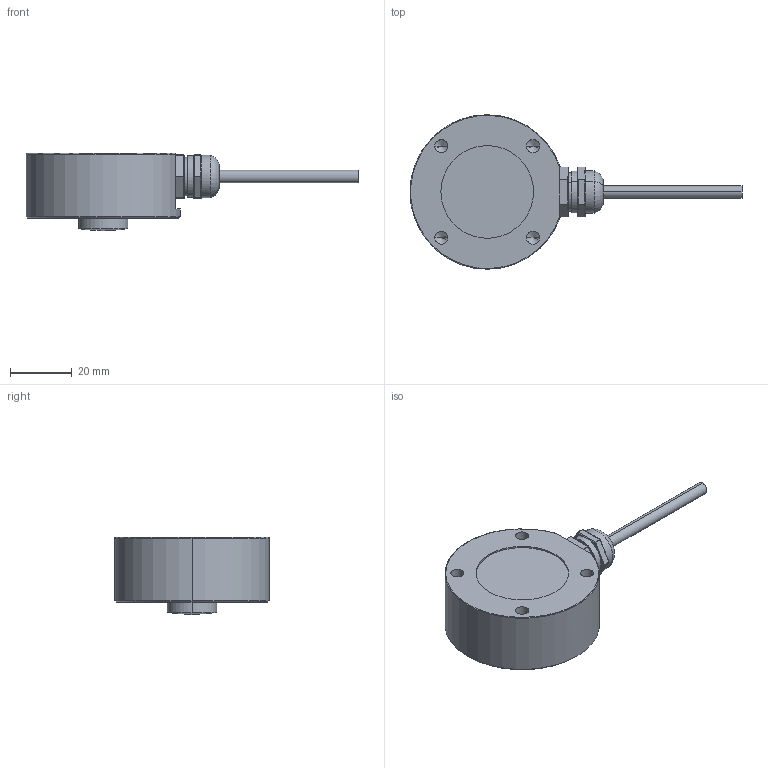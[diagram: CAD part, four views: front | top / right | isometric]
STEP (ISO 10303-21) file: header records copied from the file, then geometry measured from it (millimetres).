
FILE_DESCRIPTION (( 'STEP AP203' ), '1' );
FILE_NAME ('F1821(3000-5000kg).STEP', '2019-04-23T12:39:31', ( '' ), ( '' ), 'SwSTEP 2.0', 'SolidWorks 2018', '' );
FILE_SCHEMA (( 'CONFIG_CONTROL_DESIGN' ));
Length unit declared in the file: millimetre
Products named in the file (1): F1821(3000-5000kg)
Bounding box: 107.5 x 50 x 25 mm (x, y, z)
Volume: 43346.8 mm3; surface area: 9753 mm2
Topology: 2 solids, 2 shells, 134 faces, 297 edges, 165 vertices
Faces by surface type: cylinder 62, plane 31, sphere 18, cone 14, bspline 6, torus 3
Entity records: 3823 total; most frequent: CARTESIAN_POINT 858, DIRECTION 666, ORIENTED_EDGE 554, EDGE_CURVE 277, AXIS2_PLACEMENT_3D 272, VERTEX_POINT 160, EDGE_LOOP 147, CIRCLE 143
